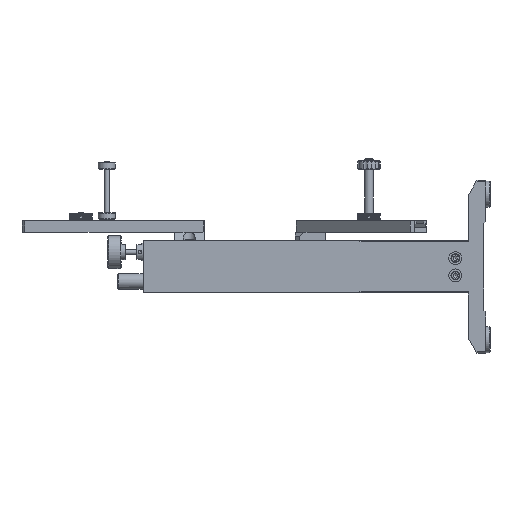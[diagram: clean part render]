
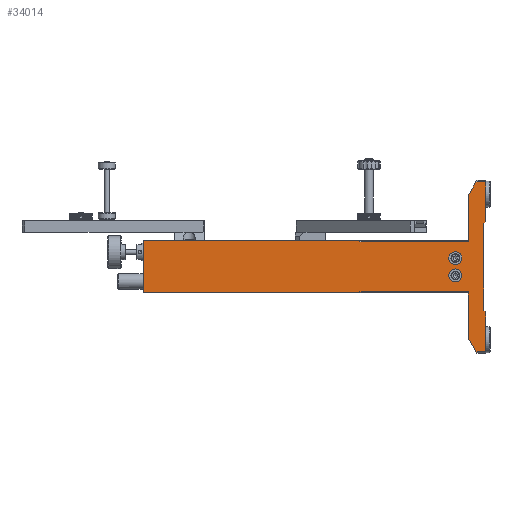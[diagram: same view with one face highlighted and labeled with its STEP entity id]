
A CAD part, left-side view. The second image highlights one B-rep face of the part: STEP entity #34014.
In plain terms, the highlighted planar face has unit normal (-1, 0, 0).
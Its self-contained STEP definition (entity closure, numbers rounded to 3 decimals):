
#875=LINE($,#51231,#3435);
#897=LINE($,#51293,#3457);
#901=LINE($,#51301,#3461);
#910=LINE($,#51334,#3470);
#911=LINE($,#51336,#3471);
#912=LINE($,#51338,#3472);
#913=LINE($,#51340,#3473);
#914=LINE($,#51342,#3474);
#915=LINE($,#51344,#3475);
#916=LINE($,#51346,#3476);
#917=LINE($,#51348,#3477);
#918=LINE($,#51350,#3478);
#919=LINE($,#51352,#3479);
#920=LINE($,#51354,#3480);
#921=LINE($,#51356,#3481);
#922=LINE($,#51357,#3482);
#923=LINE($,#51358,#3483);
#924=LINE($,#51359,#3484);
#3435=VECTOR($,#40972,60.);
#3457=VECTOR($,#41020,1.);
#3461=VECTOR($,#41026,1.);
#3470=VECTOR($,#41065,125.);
#3471=VECTOR($,#41066,53.679);
#3472=VECTOR($,#41067,17.691);
#3473=VECTOR($,#41068,11.155);
#3474=VECTOR($,#41069,46.);
#3475=VECTOR($,#41070,2.828);
#3476=VECTOR($,#41071,100.);
#3477=VECTOR($,#41072,2.828);
#3478=VECTOR($,#41073,46.);
#3479=VECTOR($,#41074,11.155);
#3480=VECTOR($,#41075,17.691);
#3481=VECTOR($,#41076,53.679);
#3482=VECTOR($,#41077,125.);
#3483=VECTOR($,#41078,250.);
#3484=VECTOR($,#41079,250.);
#6332=PLANE($,#36710);
#8257=FACE_BOUND($,#11453,.T.);
#8258=FACE_BOUND($,#11454,.T.);
#8905=FACE_OUTER_BOUND($,#11452,.T.);
#11452=EDGE_LOOP($,(#23478,#23479,#23480,#23481,#23482,#23483,#23484,#23485,
#23486,#23487,#23488,#23489,#23490,#23491,#23492,#23493,#23494,#23495));
#11453=EDGE_LOOP($,(#23496));
#11454=EDGE_LOOP($,(#23497));
#14317=CIRCLE($,#36711,7.5);
#14318=CIRCLE($,#36712,7.5);
#15740=VERTEX_POINT($,#51227);
#15742=VERTEX_POINT($,#51230);
#15767=VERTEX_POINT($,#51289);
#15769=VERTEX_POINT($,#51292);
#15771=VERTEX_POINT($,#51297);
#15772=VERTEX_POINT($,#51299);
#15781=VERTEX_POINT($,#51333);
#15782=VERTEX_POINT($,#51335);
#15783=VERTEX_POINT($,#51337);
#15784=VERTEX_POINT($,#51339);
#15785=VERTEX_POINT($,#51341);
#15786=VERTEX_POINT($,#51343);
#15787=VERTEX_POINT($,#51345);
#15788=VERTEX_POINT($,#51347);
#15789=VERTEX_POINT($,#51349);
#15790=VERTEX_POINT($,#51351);
#15791=VERTEX_POINT($,#51353);
#15792=VERTEX_POINT($,#51355);
#15793=VERTEX_POINT($,#51360);
#15794=VERTEX_POINT($,#51362);
#18544=EDGE_CURVE($,#15740,#15742,#875,.T.);
#18571=EDGE_CURVE($,#15769,#15767,#897,.T.);
#18575=EDGE_CURVE($,#15771,#15772,#901,.T.);
#18592=EDGE_CURVE($,#15781,#15767,#910,.T.);
#18593=EDGE_CURVE($,#15782,#15781,#911,.T.);
#18594=EDGE_CURVE($,#15783,#15782,#912,.T.);
#18595=EDGE_CURVE($,#15784,#15783,#913,.T.);
#18596=EDGE_CURVE($,#15785,#15784,#914,.T.);
#18597=EDGE_CURVE($,#15786,#15785,#915,.T.);
#18598=EDGE_CURVE($,#15786,#15787,#916,.T.);
#18599=EDGE_CURVE($,#15788,#15787,#917,.T.);
#18600=EDGE_CURVE($,#15789,#15788,#918,.T.);
#18601=EDGE_CURVE($,#15790,#15789,#919,.T.);
#18602=EDGE_CURVE($,#15791,#15790,#920,.T.);
#18603=EDGE_CURVE($,#15792,#15791,#921,.T.);
#18604=EDGE_CURVE($,#15771,#15792,#922,.T.);
#18605=EDGE_CURVE($,#15742,#15772,#923,.T.);
#18606=EDGE_CURVE($,#15769,#15740,#924,.T.);
#18607=EDGE_CURVE($,#15793,#15793,#14317,.T.);
#18608=EDGE_CURVE($,#15794,#15794,#14318,.T.);
#23478=ORIENTED_EDGE($,*,*,#18592,.F.);
#23479=ORIENTED_EDGE($,*,*,#18593,.F.);
#23480=ORIENTED_EDGE($,*,*,#18594,.F.);
#23481=ORIENTED_EDGE($,*,*,#18595,.F.);
#23482=ORIENTED_EDGE($,*,*,#18596,.F.);
#23483=ORIENTED_EDGE($,*,*,#18597,.F.);
#23484=ORIENTED_EDGE($,*,*,#18598,.T.);
#23485=ORIENTED_EDGE($,*,*,#18599,.F.);
#23486=ORIENTED_EDGE($,*,*,#18600,.F.);
#23487=ORIENTED_EDGE($,*,*,#18601,.F.);
#23488=ORIENTED_EDGE($,*,*,#18602,.F.);
#23489=ORIENTED_EDGE($,*,*,#18603,.F.);
#23490=ORIENTED_EDGE($,*,*,#18604,.F.);
#23491=ORIENTED_EDGE($,*,*,#18575,.T.);
#23492=ORIENTED_EDGE($,*,*,#18605,.F.);
#23493=ORIENTED_EDGE($,*,*,#18544,.F.);
#23494=ORIENTED_EDGE($,*,*,#18606,.F.);
#23495=ORIENTED_EDGE($,*,*,#18571,.T.);
#23496=ORIENTED_EDGE($,*,*,#18607,.T.);
#23497=ORIENTED_EDGE($,*,*,#18608,.T.);
#34014=ADVANCED_FACE($,(#8905,#8257,#8258),#6332,.T.);
#36710=AXIS2_PLACEMENT_3D($,#51332,#41063,#41064);
#36711=AXIS2_PLACEMENT_3D($,#51361,#41080,#41081);
#36712=AXIS2_PLACEMENT_3D($,#51363,#41082,#41083);
#40972=DIRECTION($,(0.,0.,1.));
#41020=DIRECTION($,(0.,0.,1.));
#41026=DIRECTION($,(0.,0.,1.));
#41063=DIRECTION('center_axis',(-1.,0.,0.));
#41064=DIRECTION('ref_axis',(0.,1.,0.));
#41065=DIRECTION($,(0.,1.,0.));
#41066=DIRECTION($,(0.,0.,1.));
#41067=DIRECTION($,(0.,0.5,0.866));
#41068=DIRECTION($,(0.,1.,0.));
#41069=DIRECTION($,(0.,0.,-1.));
#41070=DIRECTION($,(0.,-0.707,-0.707));
#41071=DIRECTION($,(0.,0.,1.));
#41072=DIRECTION($,(0.,0.707,-0.707));
#41073=DIRECTION($,(0.,0.,-1.));
#41074=DIRECTION($,(0.,-1.,0.));
#41075=DIRECTION($,(0.,-0.5,0.866));
#41076=DIRECTION($,(0.,0.,1.));
#41077=DIRECTION($,(0.,-1.,0.));
#41078=DIRECTION($,(0.,-1.,0.));
#41079=DIRECTION($,(0.,1.,0.));
#41080=DIRECTION('center_axis',(1.,0.,0.));
#41081=DIRECTION('ref_axis',(0.,0.,
-1.));
#41082=DIRECTION('center_axis',(1.,0.,0.));
#41083=DIRECTION('ref_axis',(0.,0.,
-1.));
#51227=CARTESIAN_POINT('',(0.,250.,0.));
#51230=CARTESIAN_POINT('',(0.,250.,60.));
#51231=CARTESIAN_POINT($,(0.,250.,0.));
#51289=CARTESIAN_POINT('',(0.,0.,
1.));
#51292=CARTESIAN_POINT('',(0.,0.,
0.));
#51293=CARTESIAN_POINT($,(0.,0.,
0.));
#51297=CARTESIAN_POINT('',(0.,0.,
59.));
#51299=CARTESIAN_POINT('',(0.,0.,
60.));
#51301=CARTESIAN_POINT($,(0.,0.,
0.));
#51332=CARTESIAN_POINT('Origin',(0.,-125.,60.));
#51333=CARTESIAN_POINT('',(0.,-125.,1.));
#51334=CARTESIAN_POINT($,(0.,-92.333,1.));
#51335=CARTESIAN_POINT('',(0.,-125.,-52.679));
#51336=CARTESIAN_POINT($,(0.,-125.,-52.679));
#51337=CARTESIAN_POINT('',(0.,-133.845,-68.));
#51338=CARTESIAN_POINT($,(0.,-135.,-70.));
#51339=CARTESIAN_POINT('',(0.,-145.,-68.));
#51340=CARTESIAN_POINT($,(0.,-140.29,-68.));
#51341=CARTESIAN_POINT('',(0.,-145.,-22.));
#51342=CARTESIAN_POINT($,(0.,-145.,130.));
#51343=CARTESIAN_POINT('',(0.,-143.,-20.));
#51344=CARTESIAN_POINT($,(0.,-129.145,-6.145));
#51345=CARTESIAN_POINT('',(0.,-143.,80.));
#51346=CARTESIAN_POINT($,(0.,-143.,55.));
#51347=CARTESIAN_POINT('',(0.,-145.,82.));
#51348=CARTESIAN_POINT($,(0.,-129.145,66.145));
#51349=CARTESIAN_POINT('',(0.,-145.,128.));
#51350=CARTESIAN_POINT($,(0.,-145.,130.));
#51351=CARTESIAN_POINT('',(0.,-133.845,128.));
#51352=CARTESIAN_POINT($,(0.,-135.29,128.));
#51353=CARTESIAN_POINT('',(0.,-125.,112.679));
#51354=CARTESIAN_POINT($,(0.,-125.,112.679));
#51355=CARTESIAN_POINT('',(0.,-125.,59.));
#51356=CARTESIAN_POINT($,(0.,-125.,-52.679));
#51357=CARTESIAN_POINT($,(0.,-92.333,59.));
#51358=CARTESIAN_POINT($,(0.,0.,60.));
#51359=CARTESIAN_POINT($,(0.,0.,
0.));
#51360=CARTESIAN_POINT('',(0.,-110.,32.5));
#51361=CARTESIAN_POINT('Origin',(0.,-110.,40.));
#51362=CARTESIAN_POINT('',(0.,-110.,12.5));
#51363=CARTESIAN_POINT('Origin',(0.,-110.,20.));
